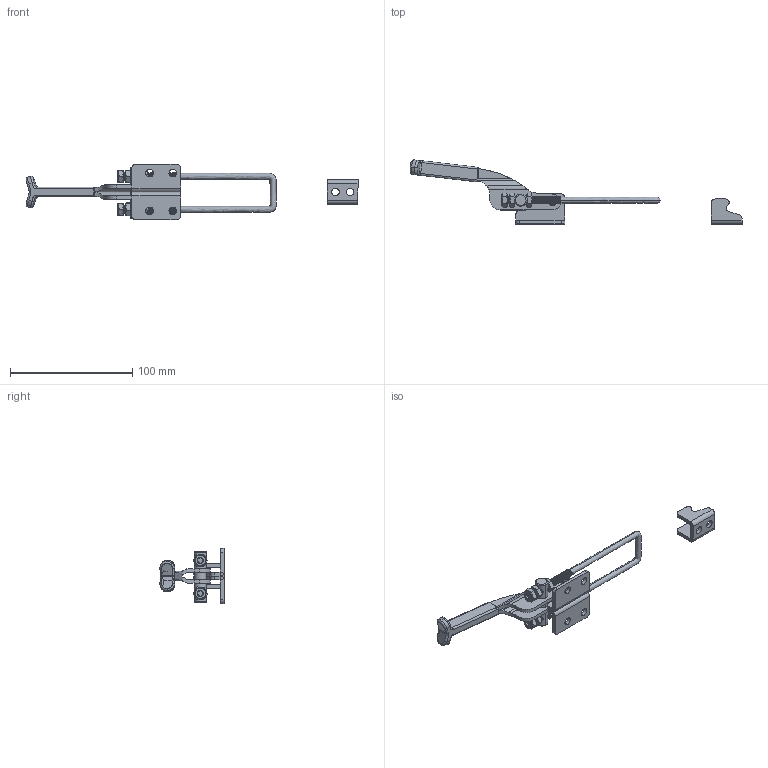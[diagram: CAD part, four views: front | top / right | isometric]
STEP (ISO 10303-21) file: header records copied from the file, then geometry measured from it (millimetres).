
FILE_DESCRIPTION (( 'STEP AP203' ), '1' );
FILE_NAME ('SK3-021-2DZ.STEP', '2018-03-17T03:05:04', ( 'admin' ), ( 'Microsoft' ), 'SwSTEP 2.0', 'SolidWorks 2015', '' );
FILE_SCHEMA (( 'CONFIG_CONTROL_DESIGN' ));
Length unit declared in the file: millimetre
Products named in the file (12): SK3-021-2DZ 蜇璃 2酘; SK3-021-2DZ 蜇璃 蹟裝; M6蹟譫; M6蹟譫 蜇璃; SK3-021-2DZ 菁釱 酘; SK3-021-2DZ 蜇璃  砎蝶參忒; SK3-021-2DZ; SK3-021-2DZ 种隊; SK3-021-2DZ 菁釱 衵; SK3-021-2DZ 蜇璃 1; SK3-021-2DZ 蜇璃 2衵
Assembly tree (15 placements, depth 2):
  SK3-021-2DZ
    SK3-021-2DZ 菁釱 酘
    SK3-021-2DZ
    SK3-021-2DZ 菁釱 衵
    SK3-021-2DZ 蜇璃 1
    SK3-021-2DZ 蜇璃 2衵
    SK3-021-2DZ 蜇璃 2酘
    SK3-021-2DZ 蜇璃 蹟裝
    M6蹟譫  x4
    M6蹟譫 蜇璃  x2
    SK3-021-2DZ 蜇璃  砎蝶參忒
    SK3-021-2DZ 种隊
Bounding box: 271.61 x 52.46 x 45 mm (x, y, z)
Volume: 34131 mm3; surface area: 32910.3 mm2
Topology: 15 solids, 15 shells, 594 faces, 1575 edges, 1016 vertices
Faces by surface type: cylinder 355, plane 155, bspline 32, torus 28, cone 24
Entity records: 32433 total; most frequent: CARTESIAN_POINT 19072, ORIENTED_EDGE 2842, DIRECTION 2237, EDGE_CURVE 1421, VERTEX_POINT 914, AXIS2_PLACEMENT_3D 841, EDGE_LOOP 569, LINE 555
